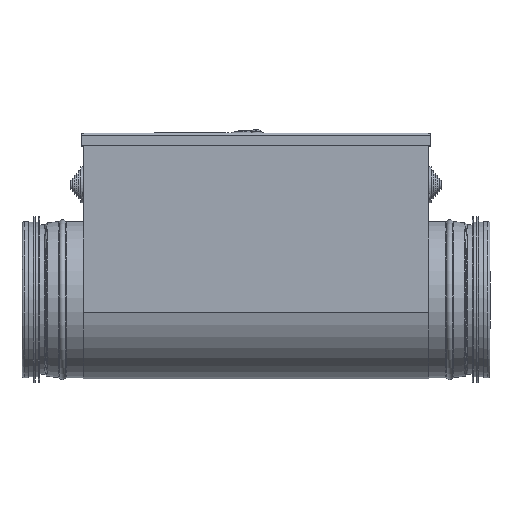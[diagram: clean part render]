
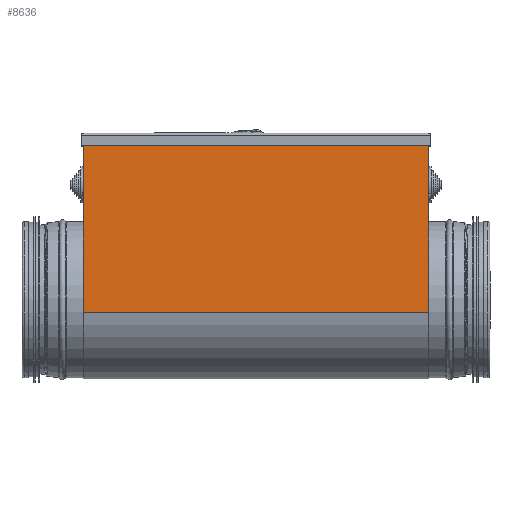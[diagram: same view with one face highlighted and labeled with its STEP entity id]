
A CAD part, top view. The second image highlights one B-rep face of the part: STEP entity #8636.
In plain terms, the highlighted planar face has unit normal (0, 0, 1).
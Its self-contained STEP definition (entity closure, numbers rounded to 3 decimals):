
#1407=FACE_OUTER_BOUND('',#1915,.T.);
#1915=EDGE_LOOP('',(#6648,#6649,#6650,#6651));
#2696=LINE('',#13099,#3356);
#2703=LINE('',#13145,#3363);
#2708=LINE('',#13177,#3368);
#2709=LINE('',#13178,#3369);
#3356=VECTOR('',#10678,1000.);
#3363=VECTOR('',#10723,1000.);
#3368=VECTOR('',#10754,10.);
#3369=VECTOR('',#10755,1000.);
#3970=VERTEX_POINT('',#13097);
#3971=VERTEX_POINT('',#13098);
#3990=VERTEX_POINT('',#13143);
#3991=VERTEX_POINT('',#13144);
#4963=EDGE_CURVE('',#3970,#3971,#2696,.T.);
#4985=EDGE_CURVE('',#3990,#3991,#2703,.T.);
#5001=EDGE_CURVE('',#3990,#3971,#2708,.T.);
#5002=EDGE_CURVE('',#3991,#3970,#2709,.T.);
#6648=ORIENTED_EDGE('',*,*,#4963,.T.);
#6649=ORIENTED_EDGE('',*,*,#5001,.F.);
#6650=ORIENTED_EDGE('',*,*,#4985,.T.);
#6651=ORIENTED_EDGE('',*,*,#5002,.T.);
#8305=PLANE('',#9275);
#8636=ADVANCED_FACE('',(#1407),#8305,.F.);
#9275=AXIS2_PLACEMENT_3D('',#13176,#10752,#10753);
#10678=DIRECTION('',(0.,1.,0.));
#10723=DIRECTION('',(0.,-1.,0.));
#10752=DIRECTION('center_axis',(0.,0.,-1.));
#10753=DIRECTION('ref_axis',(-1.,0.,0.));
#10754=DIRECTION('',(1.,0.,0.));
#10755=DIRECTION('',(1.,0.,0.));
#13097=CARTESIAN_POINT('',(136.5,-10.,62.9));
#13098=CARTESIAN_POINT('',(136.5,121.5,62.9));
#13099=CARTESIAN_POINT('',(136.5,-10.,62.9));
#13143=CARTESIAN_POINT('',(-136.5,121.5,62.9));
#13144=CARTESIAN_POINT('',(-136.5,-10.,62.9));
#13145=CARTESIAN_POINT('',(-136.5,-10.,62.9));
#13176=CARTESIAN_POINT('Origin',(-136.5,130.1,62.9));
#13177=CARTESIAN_POINT('',(137.25,121.5,62.9));
#13178=CARTESIAN_POINT('',(-136.5,-10.,62.9));
